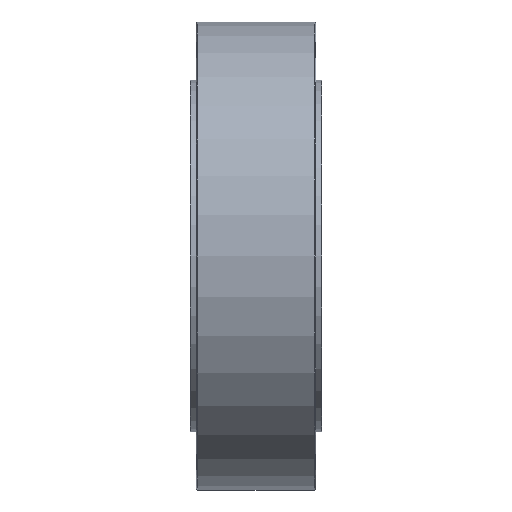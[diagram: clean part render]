
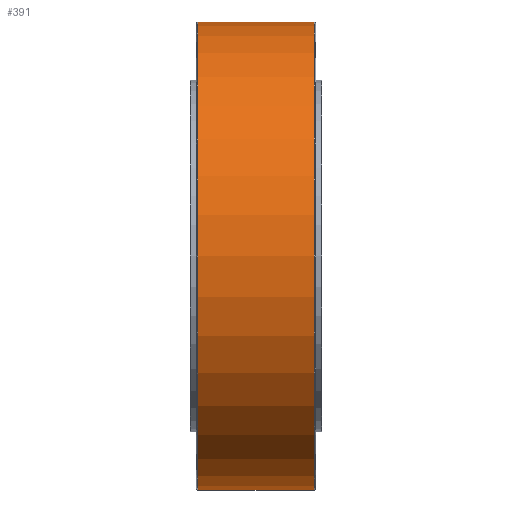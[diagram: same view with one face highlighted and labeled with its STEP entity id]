
A CAD part, front view. The second image highlights one B-rep face of the part: STEP entity #391.
In plain terms, the highlighted cylindrical face has radius 125 mm (diameter 250 mm), a partial arc.
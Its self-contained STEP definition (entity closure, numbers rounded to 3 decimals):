
#93 = VERTEX_POINT ( 'NONE', #1285 ) ;
#95 = VERTEX_POINT ( 'NONE', #1288 ) ;
#144 = VERTEX_POINT ( 'NONE', #1372 ) ;
#148 = VERTEX_POINT ( 'NONE', #1369 ) ;
#327 = EDGE_CURVE ( 'NONE', #148, #93, #1737, .T. ) ;
#328 = EDGE_CURVE ( 'NONE', #95, #144, #1731, .T. ) ;
#330 = ORIENTED_EDGE ( 'NONE', *, *, #328, .T. ) ;
#342 = ORIENTED_EDGE ( 'NONE', *, *, #3427, .T. ) ;
#344 = ORIENTED_EDGE ( 'NONE', *, *, #3425, .F. ) ;
#358 = EDGE_LOOP ( 'NONE', ( #344, #390, #342, #330 ) ) ;
#390 = ORIENTED_EDGE ( 'NONE', *, *, #327, .T. ) ;
#391 = ADVANCED_FACE ( 'NONE', ( #1833 ), #1830, .T. ) ;
#1285 = CARTESIAN_POINT ( 'NONE',  ( 31., 0., 125. ) ) ;
#1288 = CARTESIAN_POINT ( 'NONE',  ( -31., 0., 125. ) ) ;
#1369 = CARTESIAN_POINT ( 'NONE',  ( 31., 0., -125. ) ) ;
#1372 = CARTESIAN_POINT ( 'NONE',  ( -31., 0., -125. ) ) ;
#1720 = DIRECTION ( 'NONE',  ( 0., 0., -1. ) ) ;
#1721 = DIRECTION ( 'NONE',  ( 1., 0., 0. ) ) ;
#1722 = CARTESIAN_POINT ( 'NONE',  ( -31., 0., 0. ) ) ;
#1724 = DIRECTION ( 'NONE',  ( 0., 0., 1. ) ) ;
#1725 = DIRECTION ( 'NONE',  ( -1., 0., 0. ) ) ;
#1730 = AXIS2_PLACEMENT_3D ( 'NONE', #1722, #1721, #1720 ) ;
#1731 = CIRCLE ( 'NONE', #1730, 125. ) ;
#1733 = AXIS2_PLACEMENT_3D ( 'NONE', #1739, #1725, #1724 ) ;
#1737 = CIRCLE ( 'NONE', #1733, 125. ) ;
#1739 = CARTESIAN_POINT ( 'NONE',  ( 31., 0., 0. ) ) ;
#1821 = DIRECTION ( 'NONE',  ( 0., 0., 1. ) ) ;
#1822 = DIRECTION ( 'NONE',  ( -1., 0., 0. ) ) ;
#1823 = CARTESIAN_POINT ( 'NONE',  ( -41.122, 0., 0. ) ) ;
#1824 = AXIS2_PLACEMENT_3D ( 'NONE', #1823, #1822, #1821 ) ;
#1830 = CYLINDRICAL_SURFACE ( 'NONE', #1824, 125. ) ;
#1833 = FACE_OUTER_BOUND ( 'NONE', #358, .T. ) ;
#3045 = LINE ( 'NONE', #3097, #3096 ) ;
#3046 = DIRECTION ( 'NONE',  ( -1., 0., 0. ) ) ;
#3047 = VECTOR ( 'NONE', #3046, 1000. ) ;
#3048 = CARTESIAN_POINT ( 'NONE',  ( -41.122, 0., -125. ) ) ;
#3049 = LINE ( 'NONE', #3048, #3047 ) ;
#3095 = DIRECTION ( 'NONE',  ( -1., 0., 0. ) ) ;
#3096 = VECTOR ( 'NONE', #3095, 1000. ) ;
#3097 = CARTESIAN_POINT ( 'NONE',  ( -41.122, 0., 125. ) ) ;
#3425 = EDGE_CURVE ( 'NONE', #148, #144, #3049, .T. ) ;
#3427 = EDGE_CURVE ( 'NONE', #93, #95, #3045, .T. ) ;
